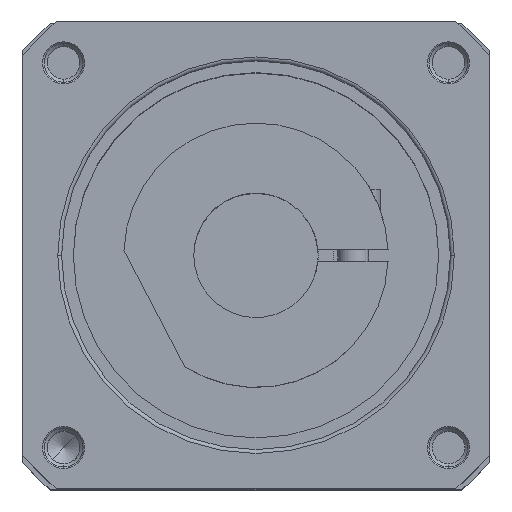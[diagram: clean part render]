
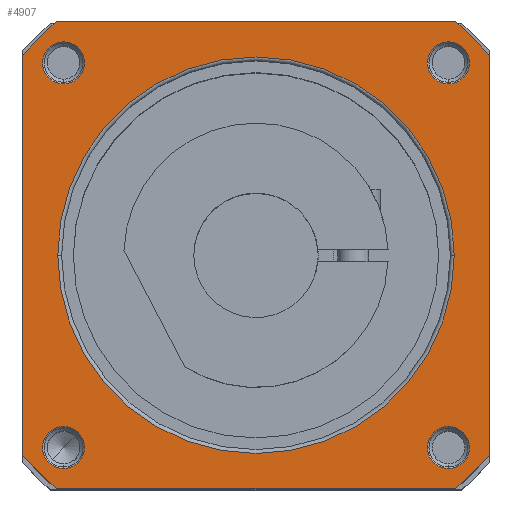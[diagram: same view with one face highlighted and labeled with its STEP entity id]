
A CAD part, top view. The second image highlights one B-rep face of the part: STEP entity #4907.
In plain terms, the highlighted planar face has unit normal (0, 0, 1) as drawn and (0, 1, 0) by its records, which use the part's own axes.
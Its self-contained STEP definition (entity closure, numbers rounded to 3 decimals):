
#3799=CARTESIAN_POINT('',(0.,41.5,0.));
#3800=DIRECTION('',(0.,1.,0.));
#3801=DIRECTION('',(0.759,0.,-0.651));
#3802=AXIS2_PLACEMENT_3D('',#3799,#3800,#3801);
#3804=DIRECTION('',(0.,0.,-1.));
#3805=VECTOR('',#3804,51.391);
#3806=CARTESIAN_POINT('',(30.,41.5,25.695));
#3807=LINE('',#3806,#3805);
#3808=CARTESIAN_POINT('',(0.,41.5,0.));
#3809=DIRECTION('',(0.,1.,0.));
#3810=DIRECTION('',(0.651,0.,0.759));
#3811=AXIS2_PLACEMENT_3D('',#3808,#3809,#3810);
#3813=DIRECTION('',(1.,0.,0.));
#3814=VECTOR('',#3813,51.391);
#3815=CARTESIAN_POINT('',(-25.695,41.5,30.));
#3816=LINE('',#3815,#3814);
#3817=CARTESIAN_POINT('',(0.,41.5,0.));
#3818=DIRECTION('',(0.,1.,0.));
#3819=DIRECTION('',(-0.759,0.,0.651));
#3820=AXIS2_PLACEMENT_3D('',#3817,#3818,#3819);
#3822=DIRECTION('',(0.,0.,1.));
#3823=VECTOR('',#3822,51.391);
#3824=CARTESIAN_POINT('',(-30.,41.5,-25.695));
#3825=LINE('',#3824,#3823);
#3826=CARTESIAN_POINT('',(0.,41.5,0.));
#3827=DIRECTION('',(0.,1.,0.));
#3828=DIRECTION('',(-0.651,0.,-0.759));
#3829=AXIS2_PLACEMENT_3D('',#3826,#3827,#3828);
#3831=DIRECTION('',(-1.,0.,0.));
#3832=VECTOR('',#3831,51.391);
#3833=CARTESIAN_POINT('',(25.695,41.5,-30.));
#3834=LINE('',#3833,#3832);
#3835=CARTESIAN_POINT('',(-24.749,41.5,24.749));
#3836=DIRECTION('',(0.,-1.,0.));
#3837=DIRECTION('',(1.,0.,0.));
#3838=AXIS2_PLACEMENT_3D('',#3835,#3836,#3837);
#3845=CARTESIAN_POINT('',(-24.749,41.5,24.749));
#3846=DIRECTION('',(0.,-1.,0.));
#3847=DIRECTION('',(-1.,0.,0.));
#3848=AXIS2_PLACEMENT_3D('',#3845,#3846,#3847);
#3881=CARTESIAN_POINT('',(-24.749,41.5,-24.749));
#3882=DIRECTION('',(0.,-1.,0.));
#3883=DIRECTION('',(1.,0.,0.));
#3884=AXIS2_PLACEMENT_3D('',#3881,#3882,#3883);
#3891=CARTESIAN_POINT('',(-24.749,41.5,-24.749));
#3892=DIRECTION('',(0.,-1.,0.));
#3893=DIRECTION('',(-1.,0.,0.));
#3894=AXIS2_PLACEMENT_3D('',#3891,#3892,#3893);
#3927=CARTESIAN_POINT('',(24.749,41.5,-24.749));
#3928=DIRECTION('',(0.,-1.,0.));
#3929=DIRECTION('',(1.,0.,0.));
#3930=AXIS2_PLACEMENT_3D('',#3927,#3928,#3929);
#3937=CARTESIAN_POINT('',(24.749,41.5,-24.749));
#3938=DIRECTION('',(0.,-1.,0.));
#3939=DIRECTION('',(-1.,0.,0.));
#3940=AXIS2_PLACEMENT_3D('',#3937,#3938,#3939);
#4289=CARTESIAN_POINT('',(24.749,41.5,24.749));
#4290=DIRECTION('',(0.,-1.,0.));
#4291=DIRECTION('',(1.,0.,0.));
#4292=AXIS2_PLACEMENT_3D('',#4289,#4290,#4291);
#4299=CARTESIAN_POINT('',(24.749,41.5,24.749));
#4300=DIRECTION('',(0.,-1.,0.));
#4301=DIRECTION('',(-1.,0.,0.));
#4302=AXIS2_PLACEMENT_3D('',#4299,#4300,#4301);
#4353=CARTESIAN_POINT('',(0.,41.5,0.));
#4354=DIRECTION('',(0.,-1.,0.));
#4355=DIRECTION('',(0.,0.,1.));
#4356=AXIS2_PLACEMENT_3D('',#4353,#4354,#4355);
#4368=CARTESIAN_POINT('',(0.,41.5,0.));
#4369=DIRECTION('',(0.,-1.,0.));
#4370=DIRECTION('',(0.,0.,-1.));
#4371=AXIS2_PLACEMENT_3D('',#4368,#4369,#4370);
#4523=CARTESIAN_POINT('',(30.,41.5,-25.695));
#4524=CARTESIAN_POINT('',(25.695,41.5,-30.));
#4525=VERTEX_POINT('',#4523);
#4526=VERTEX_POINT('',#4524);
#4527=CARTESIAN_POINT('',(-25.695,41.5,-30.));
#4528=CARTESIAN_POINT('',(-30.,41.5,-25.695));
#4529=VERTEX_POINT('',#4527);
#4530=VERTEX_POINT('',#4528);
#4531=CARTESIAN_POINT('',(-30.,41.5,25.695));
#4532=CARTESIAN_POINT('',(-25.695,41.5,30.));
#4533=VERTEX_POINT('',#4531);
#4534=VERTEX_POINT('',#4532);
#4535=CARTESIAN_POINT('',(25.695,41.5,30.));
#4536=CARTESIAN_POINT('',(30.,41.5,25.695));
#4537=VERTEX_POINT('',#4535);
#4538=VERTEX_POINT('',#4536);
#4581=CARTESIAN_POINT('',(27.449,41.5,24.749));
#4582=CARTESIAN_POINT('',(22.049,41.5,24.749));
#4583=VERTEX_POINT('',#4581);
#4584=VERTEX_POINT('',#4582);
#4589=CARTESIAN_POINT('',(-22.049,41.5,24.749));
#4590=CARTESIAN_POINT('',(-27.449,41.5,24.749));
#4591=VERTEX_POINT('',#4589);
#4592=VERTEX_POINT('',#4590);
#4597=CARTESIAN_POINT('',(-22.049,41.5,-24.749));
#4598=CARTESIAN_POINT('',(-27.449,41.5,-24.749));
#4599=VERTEX_POINT('',#4597);
#4600=VERTEX_POINT('',#4598);
#4605=CARTESIAN_POINT('',(27.449,41.5,-24.749));
#4606=CARTESIAN_POINT('',(22.049,41.5,-24.749));
#4607=VERTEX_POINT('',#4605);
#4608=VERTEX_POINT('',#4606);
#4645=CARTESIAN_POINT('',(0.,41.5,25.5));
#4646=CARTESIAN_POINT('',(0.,41.5,-25.5));
#4647=VERTEX_POINT('',#4645);
#4648=VERTEX_POINT('',#4646);
#4857=CARTESIAN_POINT('',(0.,41.5,0.));
#4858=DIRECTION('',(0.,-1.,0.));
#4859=DIRECTION('',(-1.,0.,0.));
#4860=AXIS2_PLACEMENT_3D('',#4857,#4858,#4859);
#4861=PLANE('',#4860);
#4862=ORIENTED_EDGE('',*,*,#4819,.F.);
#4864=ORIENTED_EDGE('',*,*,#4863,.F.);
#4866=ORIENTED_EDGE('',*,*,#4865,.F.);
#4868=ORIENTED_EDGE('',*,*,#4867,.F.);
#4870=ORIENTED_EDGE('',*,*,#4869,.F.);
#4872=ORIENTED_EDGE('',*,*,#4871,.F.);
#4873=ORIENTED_EDGE('',*,*,#4834,.F.);
#4874=ORIENTED_EDGE('',*,*,#4844,.F.);
#4875=EDGE_LOOP('',(#4862,#4864,#4866,#4868,#4870,#4872,#4873,#4874));
#4876=FACE_OUTER_BOUND('',#4875,.F.);
#4878=ORIENTED_EDGE('',*,*,#4877,.F.);
#4880=ORIENTED_EDGE('',*,*,#4879,.F.);
#4881=EDGE_LOOP('',(#4878,#4880));
#4882=FACE_BOUND('',#4881,.F.);
#4884=ORIENTED_EDGE('',*,*,#4883,.F.);
#4886=ORIENTED_EDGE('',*,*,#4885,.F.);
#4887=EDGE_LOOP('',(#4884,#4886));
#4888=FACE_BOUND('',#4887,.F.);
#4890=ORIENTED_EDGE('',*,*,#4889,.F.);
#4892=ORIENTED_EDGE('',*,*,#4891,.F.);
#4893=EDGE_LOOP('',(#4890,#4892));
#4894=FACE_BOUND('',#4893,.F.);
#4896=ORIENTED_EDGE('',*,*,#4895,.F.);
#4898=ORIENTED_EDGE('',*,*,#4897,.F.);
#4899=EDGE_LOOP('',(#4896,#4898));
#4900=FACE_BOUND('',#4899,.F.);
#4902=ORIENTED_EDGE('',*,*,#4901,.F.);
#4904=ORIENTED_EDGE('',*,*,#4903,.F.);
#4905=EDGE_LOOP('',(#4902,#4904));
#4906=FACE_BOUND('',#4905,.F.);
#4907=ADVANCED_FACE('',(#4876,#4882,#4888,#4894,#4900,#4906),#4861,.F.);
#3803=CIRCLE('',#3802,39.5);
#3812=CIRCLE('',#3811,39.5);
#3821=CIRCLE('',#3820,39.5);
#3830=CIRCLE('',#3829,39.5);
#3839=CIRCLE('',#3838,2.7);
#3849=CIRCLE('',#3848,2.7);
#3885=CIRCLE('',#3884,2.7);
#3895=CIRCLE('',#3894,2.7);
#3931=CIRCLE('',#3930,2.7);
#3941=CIRCLE('',#3940,2.7);
#4293=CIRCLE('',#4292,2.7);
#4303=CIRCLE('',#4302,2.7);
#4357=CIRCLE('',#4356,25.5);
#4372=CIRCLE('',#4371,25.5);
#4819=EDGE_CURVE('',#4525,#4526,#3803,.T.);
#4834=EDGE_CURVE('',#4529,#4530,#3830,.T.);
#4844=EDGE_CURVE('',#4526,#4529,#3834,.T.);
#4863=EDGE_CURVE('',#4538,#4525,#3807,.T.);
#4865=EDGE_CURVE('',#4537,#4538,#3812,.T.);
#4867=EDGE_CURVE('',#4534,#4537,#3816,.T.);
#4869=EDGE_CURVE('',#4533,#4534,#3821,.T.);
#4871=EDGE_CURVE('',#4530,#4533,#3825,.T.);
#4877=EDGE_CURVE('',#4591,#4592,#3839,.T.);
#4879=EDGE_CURVE('',#4592,#4591,#3849,.T.);
#4883=EDGE_CURVE('',#4599,#4600,#3885,.T.);
#4885=EDGE_CURVE('',#4600,#4599,#3895,.T.);
#4889=EDGE_CURVE('',#4607,#4608,#3931,.T.);
#4891=EDGE_CURVE('',#4608,#4607,#3941,.T.);
#4895=EDGE_CURVE('',#4583,#4584,#4293,.T.);
#4897=EDGE_CURVE('',#4584,#4583,#4303,.T.);
#4901=EDGE_CURVE('',#4647,#4648,#4357,.T.);
#4903=EDGE_CURVE('',#4648,#4647,#4372,.T.);
